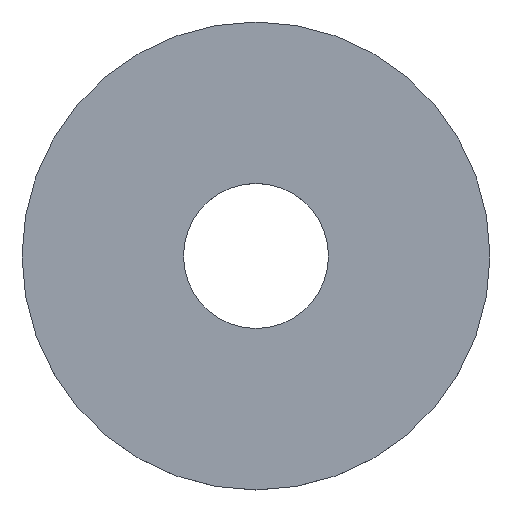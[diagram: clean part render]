
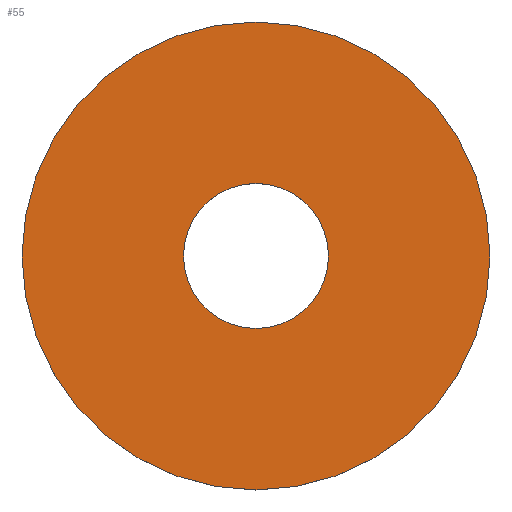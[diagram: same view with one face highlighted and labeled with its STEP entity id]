
A CAD part, top view. The second image highlights one B-rep face of the part: STEP entity #55.
In plain terms, the highlighted planar face has unit normal (0, 0, 1).
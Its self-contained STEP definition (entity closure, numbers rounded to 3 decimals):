
#2 = FACE_OUTER_BOUND ( 'NONE', #13, .T. ) ;
#5 = DIRECTION ( 'NONE',  ( 0., 1., 0. ) ) ;
#9 = CIRCLE ( 'NONE', #23, 10. ) ;
#10 = EDGE_CURVE ( 'NONE', #24, #24, #95, .T. ) ;
#12 = AXIS2_PLACEMENT_3D ( 'NONE', #113, #48, #18 ) ;
#13 = EDGE_LOOP ( 'NONE', ( #17 ) ) ;
#16 = CARTESIAN_POINT ( 'NONE',  ( 0., 3.1, 1. ) ) ;
#17 = ORIENTED_EDGE ( 'NONE', *, *, #75, .T. ) ;
#18 = DIRECTION ( 'NONE',  ( 0., 1., 0. ) ) ;
#21 = PLANE ( 'NONE',  #39 ) ;
#23 = AXIS2_PLACEMENT_3D ( 'NONE', #115, #28, #5 ) ;
#24 = VERTEX_POINT ( 'NONE', #16 ) ;
#28 = DIRECTION ( 'NONE',  ( 0., 0., 1. ) ) ;
#39 = AXIS2_PLACEMENT_3D ( 'NONE', #104, #118, #62 ) ;
#48 = DIRECTION ( 'NONE',  ( 0., 0., -1. ) ) ;
#55 = ADVANCED_FACE ( 'NONE', ( #79, #2 ), #21, .T. ) ;
#58 = ORIENTED_EDGE ( 'NONE', *, *, #10, .T. ) ;
#62 = DIRECTION ( 'NONE',  ( 0., -1., 0. ) ) ;
#65 = EDGE_LOOP ( 'NONE', ( #58 ) ) ;
#71 = VERTEX_POINT ( 'NONE', #90 ) ;
#75 = EDGE_CURVE ( 'NONE', #71, #71, #9, .T. ) ;
#79 = FACE_BOUND ( 'NONE', #65, .T. ) ;
#90 = CARTESIAN_POINT ( 'NONE',  ( 0., 10., 1. ) ) ;
#95 = CIRCLE ( 'NONE', #12, 3.1 ) ;
#104 = CARTESIAN_POINT ( 'NONE',  ( 0., 0., 1. ) ) ;
#113 = CARTESIAN_POINT ( 'NONE',  ( 0., 0., 1. ) ) ;
#115 = CARTESIAN_POINT ( 'NONE',  ( 0., 0., 1. ) ) ;
#118 = DIRECTION ( 'NONE',  ( 0., 0., 1. ) ) ;
